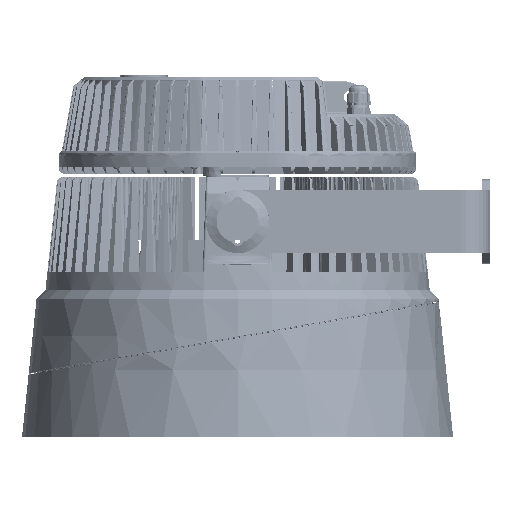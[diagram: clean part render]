
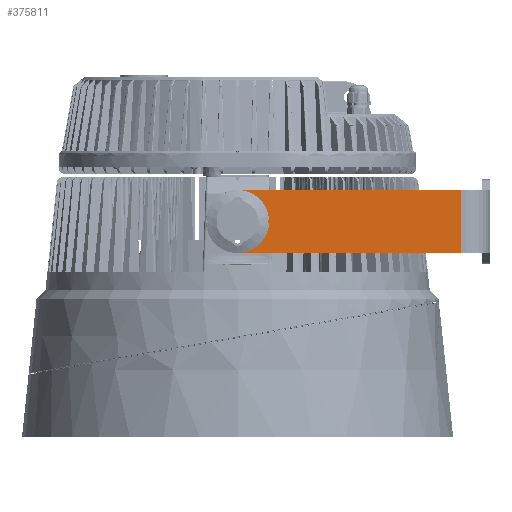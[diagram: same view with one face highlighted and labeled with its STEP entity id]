
A CAD part, front view. The second image highlights one B-rep face of the part: STEP entity #375811.
In plain terms, the highlighted planar face has unit normal (0, -1, 0).
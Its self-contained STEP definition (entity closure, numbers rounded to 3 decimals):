
#2794 = CARTESIAN_POINT ( 'NONE',  ( 0., -192., 43. ) ) ;
#26245 = ORIENTED_EDGE ( 'NONE', *, *, #201932, .T. ) ;
#45394 = CIRCLE ( 'NONE', #301834, 30. ) ;
#71257 = LINE ( 'NONE', #220186, #265882 ) ;
#91301 = FACE_BOUND ( 'NONE', #105997, .T. ) ;
#91344 = VERTEX_POINT ( 'NONE', #203760 ) ;
#105997 = EDGE_LOOP ( 'NONE', ( #464275, #458231 ) ) ;
#113589 = CARTESIAN_POINT ( 'NONE',  ( 0., -192., -10. ) ) ;
#116767 = EDGE_LOOP ( 'NONE', ( #296973, #26245, #148719, #249209 ) ) ;
#147237 = CIRCLE ( 'NONE', #423495, 23. ) ;
#148719 = ORIENTED_EDGE ( 'NONE', *, *, #287873, .T. ) ;
#149388 = DIRECTION ( 'NONE',  ( 0., -1., 0. ) ) ;
#155227 = VECTOR ( 'NONE', #289314, 1000. ) ;
#155262 = CARTESIAN_POINT ( 'NONE',  ( 212., -192., 61. ) ) ;
#168754 = EDGE_CURVE ( 'NONE', #571736, #347556, #45394, .T. ) ;
#169167 = LINE ( 'NONE', #155262, #155227 ) ;
#171769 = LINE ( 'NONE', #469691, #394372 ) ;
#179102 = VERTEX_POINT ( 'NONE', #2794 ) ;
#195611 = FACE_OUTER_BOUND ( 'NONE', #116767, .T. ) ;
#197666 = CARTESIAN_POINT ( 'NONE',  ( 0., -192., 20. ) ) ;
#201932 = EDGE_CURVE ( 'NONE', #571736, #205019, #171769, .T. ) ;
#203760 = CARTESIAN_POINT ( 'NONE',  ( 212., -192., 50. ) ) ;
#205019 = VERTEX_POINT ( 'NONE', #482429 ) ;
#212385 = CARTESIAN_POINT ( 'NONE',  ( 0., -192., 20. ) ) ;
#217129 = DIRECTION ( 'NONE',  ( 0., 1., 0. ) ) ;
#220186 = CARTESIAN_POINT ( 'NONE',  ( 0., -192., 50. ) ) ;
#242303 = DIRECTION ( 'NONE',  ( 0., 0., 1. ) ) ;
#249209 = ORIENTED_EDGE ( 'NONE', *, *, #373978, .T. ) ;
#254762 = EDGE_CURVE ( 'NONE', #375881, #179102, #279224, .T. ) ;
#257069 = DIRECTION ( 'NONE',  ( 0., 0., 1. ) ) ;
#265882 = VECTOR ( 'NONE', #397153, 1000. ) ;
#279224 = CIRCLE ( 'NONE', #550230, 23. ) ;
#287873 = EDGE_CURVE ( 'NONE', #205019, #91344, #169167, .T. ) ;
#289314 = DIRECTION ( 'NONE',  ( 0., 0., 1. ) ) ;
#296973 = ORIENTED_EDGE ( 'NONE', *, *, #168754, .F. ) ;
#301834 = AXIS2_PLACEMENT_3D ( 'NONE', #483297, #217129, #527915 ) ;
#347556 = VERTEX_POINT ( 'NONE', #559483 ) ;
#369116 = PLANE ( 'NONE',  #527222 ) ;
#373978 = EDGE_CURVE ( 'NONE', #91344, #347556, #71257, .T. ) ;
#375811 = ADVANCED_FACE ( 'NONE', ( #91301, #195611 ), #369116, .T. ) ;
#375881 = VERTEX_POINT ( 'NONE', #440922 ) ;
#377369 = EDGE_CURVE ( 'NONE', #179102, #375881, #147237, .T. ) ;
#394372 = VECTOR ( 'NONE', #514229, 1000. ) ;
#397153 = DIRECTION ( 'NONE',  ( -1., 0., 0. ) ) ;
#423495 = AXIS2_PLACEMENT_3D ( 'NONE', #197666, #508385, #242303 ) ;
#440922 = CARTESIAN_POINT ( 'NONE',  ( 0., -192., -3. ) ) ;
#458231 = ORIENTED_EDGE ( 'NONE', *, *, #254762, .T. ) ;
#460279 = DIRECTION ( 'NONE',  ( 0., 0., 1. ) ) ;
#464275 = ORIENTED_EDGE ( 'NONE', *, *, #377369, .T. ) ;
#469691 = CARTESIAN_POINT ( 'NONE',  ( 81.421, -192., -10. ) ) ;
#482429 = CARTESIAN_POINT ( 'NONE',  ( 212., -192., -10. ) ) ;
#483297 = CARTESIAN_POINT ( 'NONE',  ( 0., -192., 20. ) ) ;
#502874 = CARTESIAN_POINT ( 'NONE',  ( 212., -192., 61. ) ) ;
#508385 = DIRECTION ( 'NONE',  ( 0., 1., 0. ) ) ;
#514229 = DIRECTION ( 'NONE',  ( 1., 0., 0. ) ) ;
#523133 = DIRECTION ( 'NONE',  ( 0., 1., 0. ) ) ;
#527222 = AXIS2_PLACEMENT_3D ( 'NONE', #502874, #149388, #460279 ) ;
#527915 = DIRECTION ( 'NONE',  ( 0., 0., 1. ) ) ;
#550230 = AXIS2_PLACEMENT_3D ( 'NONE', #212385, #523133, #257069 ) ;
#559483 = CARTESIAN_POINT ( 'NONE',  ( 0., -192., 50. ) ) ;
#571736 = VERTEX_POINT ( 'NONE', #113589 ) ;
